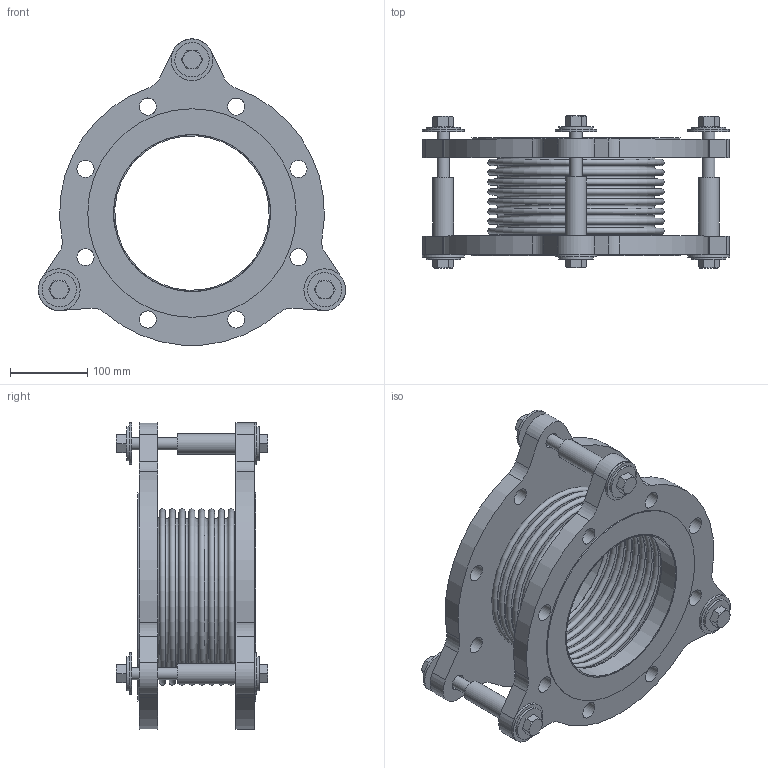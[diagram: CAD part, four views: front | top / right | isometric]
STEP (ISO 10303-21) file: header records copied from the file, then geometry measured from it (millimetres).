
FILE_DESCRIPTION(/* description */ (''),/* implementation_level */ '2;1');
FILE_NAME(/* name */ 'C:\001_Work\Designs\RFB\RFB-8x6.stp',/* time_stamp */ '2016-04-28T19:19:29-04:00',/* author */ ('rramoutar'),/* organization */ ('Mason Industries Inc.'),/* preprocessor_version */ 'ST-DEVELOPER v15.6',/* originating_system */ 'Autodesk Inventor 2015',/* authorisation */ '');
FILE_SCHEMA (('CONFIG_CONTROL_DESIGN'));
Length unit declared in the file: inch
Products named in the file (1): 8in_RFB_150FLANGE
Bounding box: 397.67 x 196.46 x 396.32 mm (x, y, z)
Volume: 3799883.6 mm3; surface area: 937577.9 mm2
Topology: 24 solids, 24 shells, 317 faces, 663 edges, 431 vertices
Faces by surface type: plane 133, cylinder 90, cone 60, torus 34
Full cylindrical faces by diameter (mm): 13.386 x3, 15.875 x9, 17.462 x6, 20.637 x6, 20.93 x3, 22.225 x16, 26.67 x3, 44.45 x6, 53.975 x6, 200.025 x2, 203.2 x4, 269.875 x2
Entity records: 8155 total; most frequent: CARTESIAN_POINT 1460, DIRECTION 1358, ORIENTED_EDGE 1052, AXIS2_PLACEMENT_3D 622, EDGE_LOOP 546, EDGE_CURVE 526, VERTEX_POINT 400, STYLED_ITEM 341
